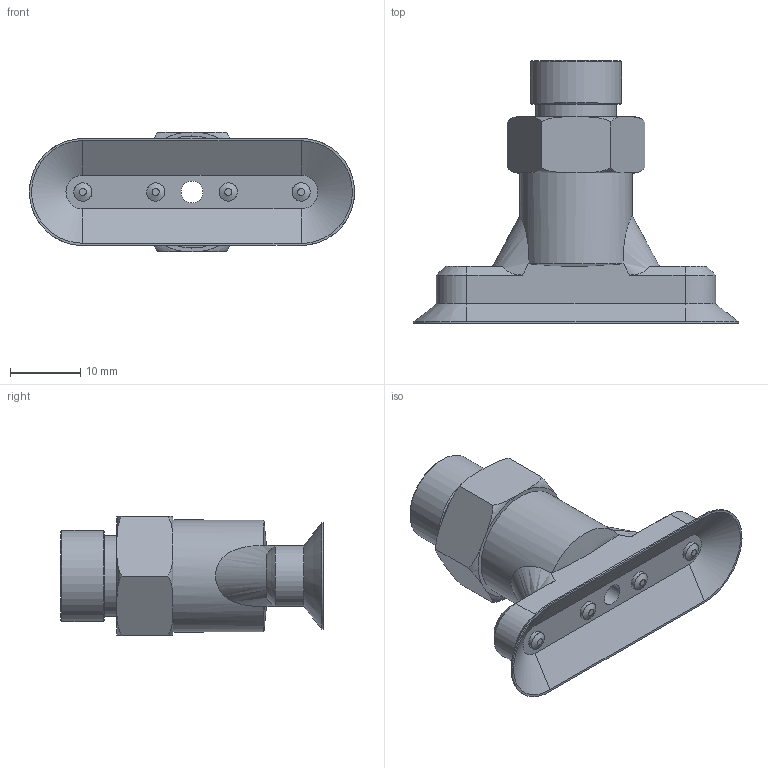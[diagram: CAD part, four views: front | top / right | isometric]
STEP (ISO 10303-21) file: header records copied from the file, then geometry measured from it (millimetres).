
FILE_DESCRIPTION (( 'STEP AP214' ), '1' );
FILE_NAME ('10FO.45X15.002.09-G14M.STEP', '2025-06-09T12:21:31', ( '' ), ( '' ), 'SwSTEP 2.0', 'SolidWorks 2025', '' );
FILE_SCHEMA (( 'AUTOMOTIVE_DESIGN' ));
Length unit declared in the file: inch
Products named in the file (3): 10FO.45X15.002.09-G14M; 10FO.45X15.002.09; 130.097
Assembly tree (2 placements, depth 2):
  10FO.45X15.002.09-G14M
    10FO.45X15.002.09
    130.097
Bounding box: 46.26 x 37.41 x 17 mm (x, y, z)
Volume: 6601.6 mm3; surface area: 5569.9 mm2
Topology: 2 solids, 2 shells, 96 faces, 225 edges, 146 vertices
Faces by surface type: plane 41, cylinder 22, bspline 13, torus 12, cone 8
Full cylindrical faces by diameter (mm): 2.587 x4, 3.105 x1, 6.5 x1, 7 x1, 11.5 x1, 11.902 x2, 11.95 x2, 12.95 x1, 13 x3, 13.558 x3, 15.939 x1
Entity records: 4665 total; most frequent: CARTESIAN_POINT 2728, ORIENTED_EDGE 366, DIRECTION 322, EDGE_CURVE 183, EDGE_LOOP 146, AXIS2_PLACEMENT_3D 142, VERTEX_POINT 137, FACE_OUTER_BOUND 120
